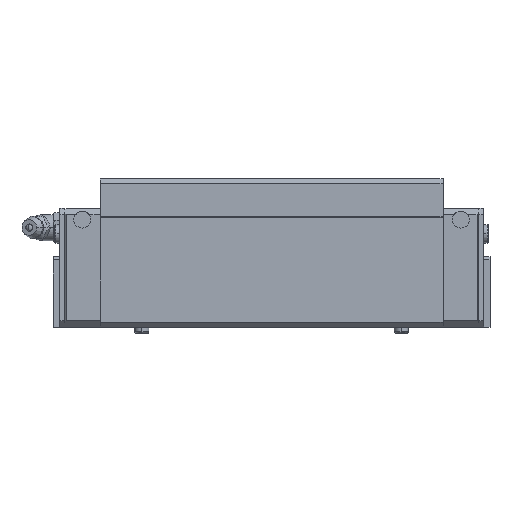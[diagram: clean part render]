
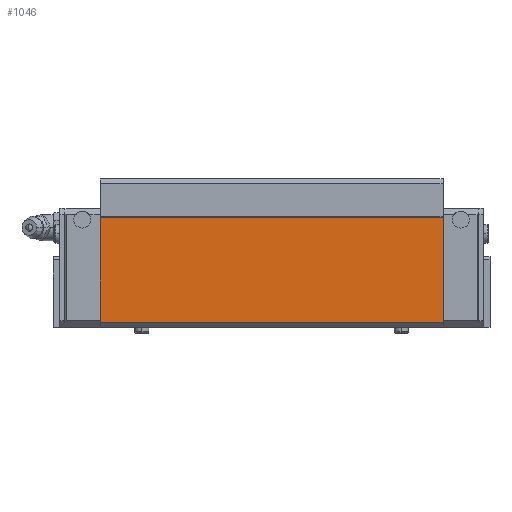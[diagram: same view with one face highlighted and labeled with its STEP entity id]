
A CAD part, top view. The second image highlights one B-rep face of the part: STEP entity #1046.
In plain terms, the highlighted planar face has unit normal (0, 0, 1).
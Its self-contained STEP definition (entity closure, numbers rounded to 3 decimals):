
#121 = AXIS2_PLACEMENT_3D ( 'NONE', #1296, #6844, #2584 ) ;
#224 = EDGE_CURVE ( 'NONE', #7694, #4532, #689, .T. ) ;
#250 = CARTESIAN_POINT ( 'NONE',  ( -52.9, 43., 34.7 ) ) ;
#271 = VECTOR ( 'NONE', #1141, 1000. ) ;
#360 = DIRECTION ( 'NONE',  ( 0., -1., 0. ) ) ;
#512 = VERTEX_POINT ( 'NONE', #6665 ) ;
#689 = LINE ( 'NONE', #7965, #5697 ) ;
#740 = FACE_OUTER_BOUND ( 'NONE', #2104, .T. ) ;
#1046 = ADVANCED_FACE ( 'NONE', ( #740 ), #8024, .F. ) ;
#1141 = DIRECTION ( 'NONE',  ( -1., 0., 0. ) ) ;
#1296 = CARTESIAN_POINT ( 'NONE',  ( 52.9, 43., 34.7 ) ) ;
#1321 = DIRECTION ( 'NONE',  ( 0., -1., 0. ) ) ;
#1426 = ORIENTED_EDGE ( 'NONE', *, *, #224, .T. ) ;
#2104 = EDGE_LOOP ( 'NONE', ( #1426, #5493, #7775, #5310 ) ) ;
#2312 = EDGE_CURVE ( 'NONE', #5582, #4532, #5569, .T. ) ;
#2330 = CARTESIAN_POINT ( 'NONE',  ( 52.9, 43., 34.7 ) ) ;
#2584 = DIRECTION ( 'NONE',  ( 0., -1., 0. ) ) ;
#3004 = EDGE_CURVE ( 'NONE', #512, #7694, #4355, .T. ) ;
#3336 = EDGE_CURVE ( 'NONE', #512, #5582, #6696, .T. ) ;
#4355 = LINE ( 'NONE', #6187, #5399 ) ;
#4464 = DIRECTION ( 'NONE',  ( -1., 0., 0. ) ) ;
#4532 = VERTEX_POINT ( 'NONE', #5640 ) ;
#5232 = CARTESIAN_POINT ( 'NONE',  ( 52.9, 10.783, 34.7 ) ) ;
#5310 = ORIENTED_EDGE ( 'NONE', *, *, #3004, .T. ) ;
#5399 = VECTOR ( 'NONE', #4464, 1000. ) ;
#5493 = ORIENTED_EDGE ( 'NONE', *, *, #2312, .F. ) ;
#5569 = LINE ( 'NONE', #6744, #271 ) ;
#5582 = VERTEX_POINT ( 'NONE', #5232 ) ;
#5640 = CARTESIAN_POINT ( 'NONE',  ( -52.9, 10.783, 34.7 ) ) ;
#5697 = VECTOR ( 'NONE', #1321, 1000. ) ;
#6187 = CARTESIAN_POINT ( 'NONE',  ( 52.9, 43., 34.7 ) ) ;
#6665 = CARTESIAN_POINT ( 'NONE',  ( 52.9, 43., 34.7 ) ) ;
#6696 = LINE ( 'NONE', #2330, #7476 ) ;
#6744 = CARTESIAN_POINT ( 'NONE',  ( 52.9, 10.783, 34.7 ) ) ;
#6844 = DIRECTION ( 'NONE',  ( 0., 0., -1. ) ) ;
#7476 = VECTOR ( 'NONE', #360, 1000. ) ;
#7694 = VERTEX_POINT ( 'NONE', #250 ) ;
#7775 = ORIENTED_EDGE ( 'NONE', *, *, #3336, .F. ) ;
#7965 = CARTESIAN_POINT ( 'NONE',  ( -52.9, 43., 34.7 ) ) ;
#8024 = PLANE ( 'NONE',  #121 ) ;
